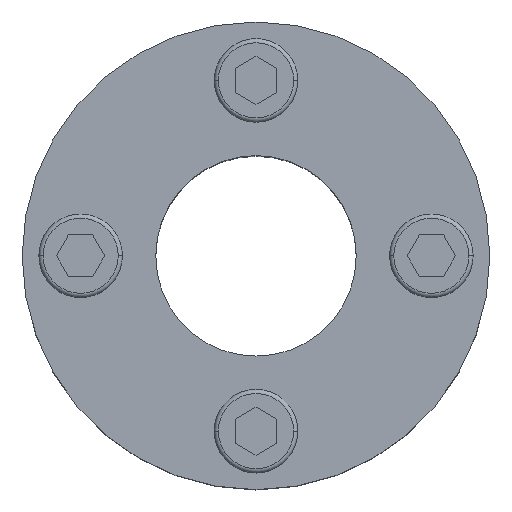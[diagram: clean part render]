
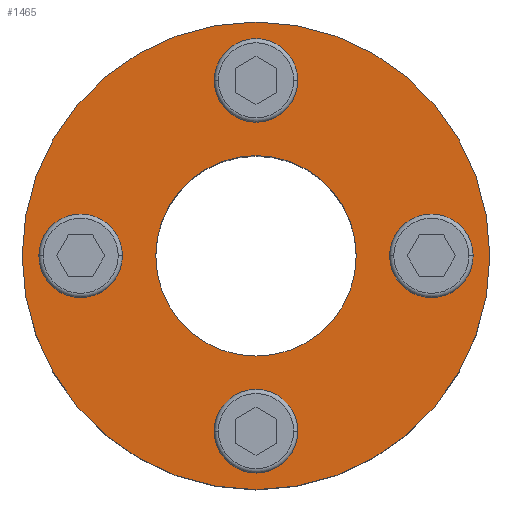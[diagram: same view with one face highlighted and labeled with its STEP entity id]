
A CAD part, top view. The second image highlights one B-rep face of the part: STEP entity #1465.
In plain terms, the highlighted planar face has unit normal (0, 0, 1).
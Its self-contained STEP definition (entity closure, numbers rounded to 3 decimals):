
#23 = DIRECTION ( 'NONE',  ( -1., 0., 0. ) ) ;
#35 = ORIENTED_EDGE ( 'NONE', *, *, #844, .F. ) ;
#39 = CARTESIAN_POINT ( 'NONE',  ( -12., 0., 0. ) ) ;
#91 = EDGE_LOOP ( 'NONE', ( #1232, #1372 ) ) ;
#102 = CIRCLE ( 'NONE', #1653, 12. ) ;
#114 = DIRECTION ( 'NONE',  ( 0., 0., 1. ) ) ;
#119 = CARTESIAN_POINT ( 'NONE',  ( 0., 0., 0. ) ) ;
#132 = AXIS2_PLACEMENT_3D ( 'NONE', #272, #1076, #554 ) ;
#133 = CARTESIAN_POINT ( 'NONE',  ( 26., 0., 0. ) ) ;
#137 = DIRECTION ( 'NONE',  ( -1., 0., 0. ) ) ;
#141 = CIRCLE ( 'NONE', #132, 5. ) ;
#157 = AXIS2_PLACEMENT_3D ( 'NONE', #1347, #977, #726 ) ;
#158 = FACE_OUTER_BOUND ( 'NONE', #91, .T. ) ;
#164 = VERTEX_POINT ( 'NONE', #780 ) ;
#174 = CARTESIAN_POINT ( 'NONE',  ( 21., 0., 0. ) ) ;
#184 = CARTESIAN_POINT ( 'NONE',  ( 28., 0., 0. ) ) ;
#190 = CARTESIAN_POINT ( 'NONE',  ( 0., 21., 0. ) ) ;
#205 = EDGE_LOOP ( 'NONE', ( #1448, #348 ) ) ;
#212 = AXIS2_PLACEMENT_3D ( 'NONE', #1571, #1216, #953 ) ;
#247 = ORIENTED_EDGE ( 'NONE', *, *, #1310, .F. ) ;
#255 = EDGE_LOOP ( 'NONE', ( #1170, #582 ) ) ;
#258 = CARTESIAN_POINT ( 'NONE',  ( 16., 0., 0. ) ) ;
#272 = CARTESIAN_POINT ( 'NONE',  ( 21., 0., 0. ) ) ;
#294 = VERTEX_POINT ( 'NONE', #459 ) ;
#295 = EDGE_CURVE ( 'NONE', #398, #1645, #352, .T. ) ;
#303 = CARTESIAN_POINT ( 'NONE',  ( -5., 21., 0. ) ) ;
#310 = EDGE_CURVE ( 'NONE', #1665, #1072, #710, .T. ) ;
#313 = EDGE_LOOP ( 'NONE', ( #625, #635 ) ) ;
#322 = CARTESIAN_POINT ( 'NONE',  ( -21., 0., 0. ) ) ;
#327 = DIRECTION ( 'NONE',  ( 1., 0., 0. ) ) ;
#348 = ORIENTED_EDGE ( 'NONE', *, *, #310, .F. ) ;
#350 = VERTEX_POINT ( 'NONE', #303 ) ;
#352 = CIRCLE ( 'NONE', #980, 5. ) ;
#375 = CARTESIAN_POINT ( 'NONE',  ( 0., 0., 0. ) ) ;
#390 = AXIS2_PLACEMENT_3D ( 'NONE', #190, #590, #847 ) ;
#398 = VERTEX_POINT ( 'NONE', #1492 ) ;
#459 = CARTESIAN_POINT ( 'NONE',  ( -5., -21., 0. ) ) ;
#480 = CARTESIAN_POINT ( 'NONE',  ( -21., 0., 0. ) ) ;
#484 = AXIS2_PLACEMENT_3D ( 'NONE', #664, #693, #23 ) ;
#499 = CARTESIAN_POINT ( 'NONE',  ( -16., 0., 0. ) ) ;
#515 = FACE_BOUND ( 'NONE', #255, .T. ) ;
#529 = AXIS2_PLACEMENT_3D ( 'NONE', #1339, #1360, #1489 ) ;
#541 = DIRECTION ( 'NONE',  ( 1., 0., 0. ) ) ;
#554 = DIRECTION ( 'NONE',  ( -1., 0., 0. ) ) ;
#574 = CIRCLE ( 'NONE', #828, 28. ) ;
#582 = ORIENTED_EDGE ( 'NONE', *, *, #1581, .F. ) ;
#590 = DIRECTION ( 'NONE',  ( 0., 0., 1. ) ) ;
#595 = DIRECTION ( 'NONE',  ( 0., 0., 1. ) ) ;
#599 = CIRCLE ( 'NONE', #982, 5. ) ;
#625 = ORIENTED_EDGE ( 'NONE', *, *, #295, .F. ) ;
#631 = VERTEX_POINT ( 'NONE', #184 ) ;
#635 = ORIENTED_EDGE ( 'NONE', *, *, #1530, .F. ) ;
#664 = CARTESIAN_POINT ( 'NONE',  ( 0., -21., 0. ) ) ;
#693 = DIRECTION ( 'NONE',  ( 0., 0., 1. ) ) ;
#702 = CARTESIAN_POINT ( 'NONE',  ( -28., 0., 0. ) ) ;
#710 = CIRCLE ( 'NONE', #765, 5. ) ;
#718 = PLANE ( 'NONE',  #529 ) ;
#726 = DIRECTION ( 'NONE',  ( -1., 0., 0. ) ) ;
#741 = DIRECTION ( 'NONE',  ( 0., 0., 1. ) ) ;
#765 = AXIS2_PLACEMENT_3D ( 'NONE', #174, #595, #855 ) ;
#780 = CARTESIAN_POINT ( 'NONE',  ( 5., -21., 0. ) ) ;
#824 = CIRCLE ( 'NONE', #907, 28. ) ;
#825 = EDGE_CURVE ( 'NONE', #350, #949, #1270, .T. ) ;
#828 = AXIS2_PLACEMENT_3D ( 'NONE', #119, #1293, #1418 ) ;
#844 = EDGE_CURVE ( 'NONE', #949, #350, #1473, .T. ) ;
#847 = DIRECTION ( 'NONE',  ( -1., 0., 0. ) ) ;
#855 = DIRECTION ( 'NONE',  ( -1., 0., 0. ) ) ;
#858 = DIRECTION ( 'NONE',  ( 0., 0., 1. ) ) ;
#868 = FACE_BOUND ( 'NONE', #1670, .T. ) ;
#888 = ORIENTED_EDGE ( 'NONE', *, *, #1298, .F. ) ;
#892 = CIRCLE ( 'NONE', #212, 5. ) ;
#907 = AXIS2_PLACEMENT_3D ( 'NONE', #1068, #1328, #541 ) ;
#949 = VERTEX_POINT ( 'NONE', #1179 ) ;
#953 = DIRECTION ( 'NONE',  ( -1., 0., 0. ) ) ;
#977 = DIRECTION ( 'NONE',  ( 0., 0., 1. ) ) ;
#978 = FACE_BOUND ( 'NONE', #1604, .T. ) ;
#980 = AXIS2_PLACEMENT_3D ( 'NONE', #322, #741, #1631 ) ;
#982 = AXIS2_PLACEMENT_3D ( 'NONE', #480, #114, #137 ) ;
#1043 = ORIENTED_EDGE ( 'NONE', *, *, #825, .F. ) ;
#1068 = CARTESIAN_POINT ( 'NONE',  ( 0., 0., 0. ) ) ;
#1072 = VERTEX_POINT ( 'NONE', #258 ) ;
#1076 = DIRECTION ( 'NONE',  ( 0., 0., 1. ) ) ;
#1101 = CARTESIAN_POINT ( 'NONE',  ( 12., 0., 0. ) ) ;
#1129 = CARTESIAN_POINT ( 'NONE',  ( 0., 0., 0. ) ) ;
#1170 = ORIENTED_EDGE ( 'NONE', *, *, #1218, .F. ) ;
#1177 = DIRECTION ( 'NONE',  ( 1., 0., 0. ) ) ;
#1179 = CARTESIAN_POINT ( 'NONE',  ( 5., 21., 0. ) ) ;
#1202 = FACE_BOUND ( 'NONE', #313, .T. ) ;
#1216 = DIRECTION ( 'NONE',  ( 0., 0., 1. ) ) ;
#1218 = EDGE_CURVE ( 'NONE', #1523, #1475, #102, .T. ) ;
#1232 = ORIENTED_EDGE ( 'NONE', *, *, #1605, .T. ) ;
#1247 = FACE_BOUND ( 'NONE', #205, .T. ) ;
#1270 = CIRCLE ( 'NONE', #390, 5. ) ;
#1276 = AXIS2_PLACEMENT_3D ( 'NONE', #375, #1669, #1177 ) ;
#1292 = EDGE_CURVE ( 'NONE', #1072, #1665, #141, .T. ) ;
#1293 = DIRECTION ( 'NONE',  ( 0., 0., 1. ) ) ;
#1298 = EDGE_CURVE ( 'NONE', #164, #294, #1348, .T. ) ;
#1310 = EDGE_CURVE ( 'NONE', #294, #164, #892, .T. ) ;
#1328 = DIRECTION ( 'NONE',  ( 0., 0., 1. ) ) ;
#1339 = CARTESIAN_POINT ( 'NONE',  ( -12., 0., 0. ) ) ;
#1347 = CARTESIAN_POINT ( 'NONE',  ( 0., 21., 0. ) ) ;
#1348 = CIRCLE ( 'NONE', #484, 5. ) ;
#1360 = DIRECTION ( 'NONE',  ( 0., 0., -1. ) ) ;
#1372 = ORIENTED_EDGE ( 'NONE', *, *, #1423, .T. ) ;
#1418 = DIRECTION ( 'NONE',  ( 1., 0., 0. ) ) ;
#1423 = EDGE_CURVE ( 'NONE', #1556, #631, #824, .T. ) ;
#1448 = ORIENTED_EDGE ( 'NONE', *, *, #1292, .F. ) ;
#1465 = ADVANCED_FACE ( 'NONE', ( #978, #1247, #868, #1202, #515, #158 ), #718, .F. ) ;
#1473 = CIRCLE ( 'NONE', #157, 5. ) ;
#1475 = VERTEX_POINT ( 'NONE', #39 ) ;
#1489 = DIRECTION ( 'NONE',  ( -1., 0., 0. ) ) ;
#1492 = CARTESIAN_POINT ( 'NONE',  ( -26., 0., 0. ) ) ;
#1523 = VERTEX_POINT ( 'NONE', #1101 ) ;
#1530 = EDGE_CURVE ( 'NONE', #1645, #398, #599, .T. ) ;
#1556 = VERTEX_POINT ( 'NONE', #702 ) ;
#1571 = CARTESIAN_POINT ( 'NONE',  ( 0., -21., 0. ) ) ;
#1581 = EDGE_CURVE ( 'NONE', #1475, #1523, #1654, .T. ) ;
#1604 = EDGE_LOOP ( 'NONE', ( #1043, #35 ) ) ;
#1605 = EDGE_CURVE ( 'NONE', #631, #1556, #574, .T. ) ;
#1631 = DIRECTION ( 'NONE',  ( -1., 0., 0. ) ) ;
#1645 = VERTEX_POINT ( 'NONE', #499 ) ;
#1653 = AXIS2_PLACEMENT_3D ( 'NONE', #1129, #858, #327 ) ;
#1654 = CIRCLE ( 'NONE', #1276, 12. ) ;
#1665 = VERTEX_POINT ( 'NONE', #133 ) ;
#1669 = DIRECTION ( 'NONE',  ( 0., 0., 1. ) ) ;
#1670 = EDGE_LOOP ( 'NONE', ( #247, #888 ) ) ;
